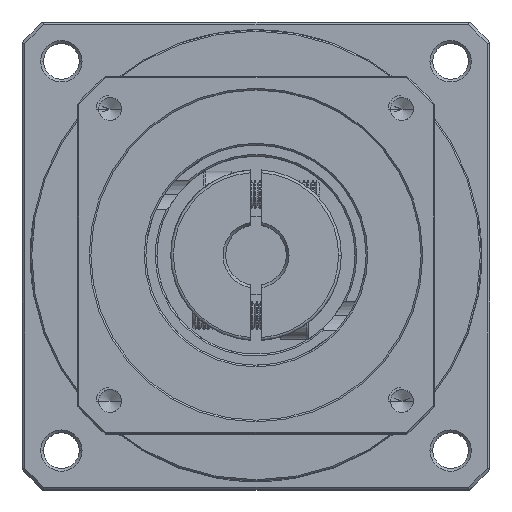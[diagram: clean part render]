
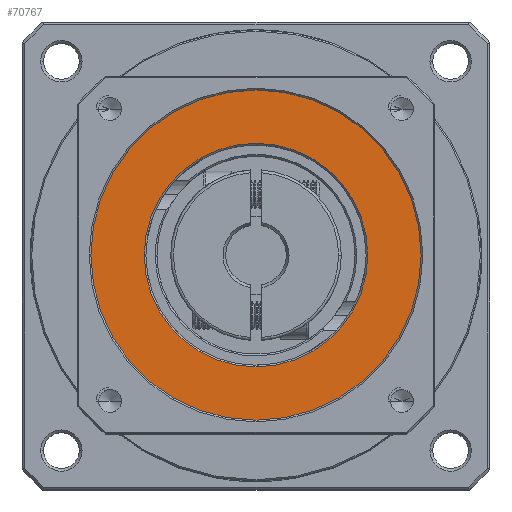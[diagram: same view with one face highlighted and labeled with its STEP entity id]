
A CAD part, top view. The second image highlights one B-rep face of the part: STEP entity #70767.
In plain terms, the highlighted planar face has unit normal (0, 0, 1).
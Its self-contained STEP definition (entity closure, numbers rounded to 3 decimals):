
#978 = ORIENTED_EDGE ( 'NONE', *, *, #64083, .T. ) ;
#10098 = AXIS2_PLACEMENT_3D ( 'NONE', #35045, #15817, #25805 ) ;
#10969 = EDGE_CURVE ( 'NONE', #82501, #62947, #128654, .T. ) ;
#15817 = DIRECTION ( 'NONE',  ( 0., 0., -1. ) ) ;
#17096 = FACE_OUTER_BOUND ( 'NONE', #129861, .T. ) ;
#17124 = DIRECTION ( 'NONE',  ( 0., 0., 1. ) ) ;
#19329 = CARTESIAN_POINT ( 'NONE',  ( -97.624, 64.145, 1.801 ) ) ;
#19997 = DIRECTION ( 'NONE',  ( 1., 0., 0. ) ) ;
#25805 = DIRECTION ( 'NONE',  ( 1., 0., 0. ) ) ;
#32743 = FACE_BOUND ( 'NONE', #80009, .T. ) ;
#35045 = CARTESIAN_POINT ( 'NONE',  ( -77.324, 64.145, 1.801 ) ) ;
#35479 = CARTESIAN_POINT ( 'NONE',  ( -77.324, 64.145, 1.801 ) ) ;
#37082 = CIRCLE ( 'NONE', #70969, 30. ) ;
#48841 = CARTESIAN_POINT ( 'NONE',  ( -77.324, 64.145, 1.801 ) ) ;
#56736 = AXIS2_PLACEMENT_3D ( 'NONE', #48841, #110302, #69523 ) ;
#59025 = CARTESIAN_POINT ( 'NONE',  ( -47.324, 64.145, 1.801 ) ) ;
#62947 = VERTEX_POINT ( 'NONE', #73366 ) ;
#63799 = EDGE_CURVE ( 'NONE', #62947, #82501, #37082, .T. ) ;
#64083 = EDGE_CURVE ( 'NONE', #129963, #74472, #128177, .T. ) ;
#66965 = AXIS2_PLACEMENT_3D ( 'NONE', #103112, #122933, #74095 ) ;
#69523 = DIRECTION ( 'NONE',  ( 1., 0., 0. ) ) ;
#70767 = ADVANCED_FACE ( 'NONE', ( #32743, #17096 ), #127367, .T. ) ;
#70969 = AXIS2_PLACEMENT_3D ( 'NONE', #80083, #79623, #19997 ) ;
#73252 = ORIENTED_EDGE ( 'NONE', *, *, #10969, .T. ) ;
#73366 = CARTESIAN_POINT ( 'NONE',  ( -107.324, 64.145, 1.801 ) ) ;
#74095 = DIRECTION ( 'NONE',  ( 1., 0., 0. ) ) ;
#74472 = VERTEX_POINT ( 'NONE', #119491 ) ;
#79623 = DIRECTION ( 'NONE',  ( 0., 0., 1. ) ) ;
#80009 = EDGE_LOOP ( 'NONE', ( #80757, #978 ) ) ;
#80083 = CARTESIAN_POINT ( 'NONE',  ( -77.324, 64.145, 1.801 ) ) ;
#80757 = ORIENTED_EDGE ( 'NONE', *, *, #93017, .T. ) ;
#82501 = VERTEX_POINT ( 'NONE', #59025 ) ;
#87342 = DIRECTION ( 'NONE',  ( 1., 0., 0. ) ) ;
#87549 = CIRCLE ( 'NONE', #10098, 20.3 ) ;
#93017 = EDGE_CURVE ( 'NONE', #74472, #129963, #87549, .T. ) ;
#102367 = ORIENTED_EDGE ( 'NONE', *, *, #63799, .T. ) ;
#103112 = CARTESIAN_POINT ( 'NONE',  ( -77.324, 64.145, 1.801 ) ) ;
#110302 = DIRECTION ( 'NONE',  ( 0., 0., -1. ) ) ;
#113589 = AXIS2_PLACEMENT_3D ( 'NONE', #35479, #17124, #87342 ) ;
#119491 = CARTESIAN_POINT ( 'NONE',  ( -57.024, 64.145, 1.801 ) ) ;
#122933 = DIRECTION ( 'NONE',  ( 0., 0., 1. ) ) ;
#127367 = PLANE ( 'NONE',  #113589 ) ;
#128177 = CIRCLE ( 'NONE', #56736, 20.3 ) ;
#128654 = CIRCLE ( 'NONE', #66965, 30. ) ;
#129861 = EDGE_LOOP ( 'NONE', ( #73252, #102367 ) ) ;
#129963 = VERTEX_POINT ( 'NONE', #19329 ) ;
